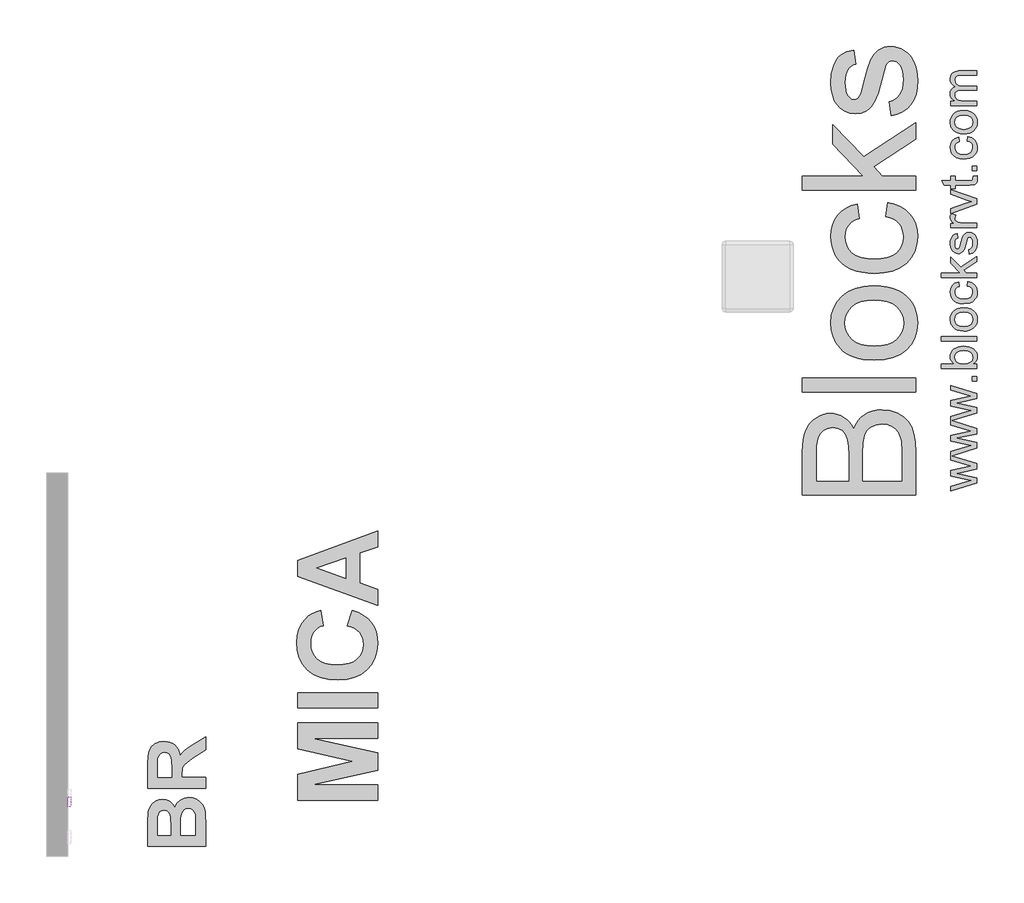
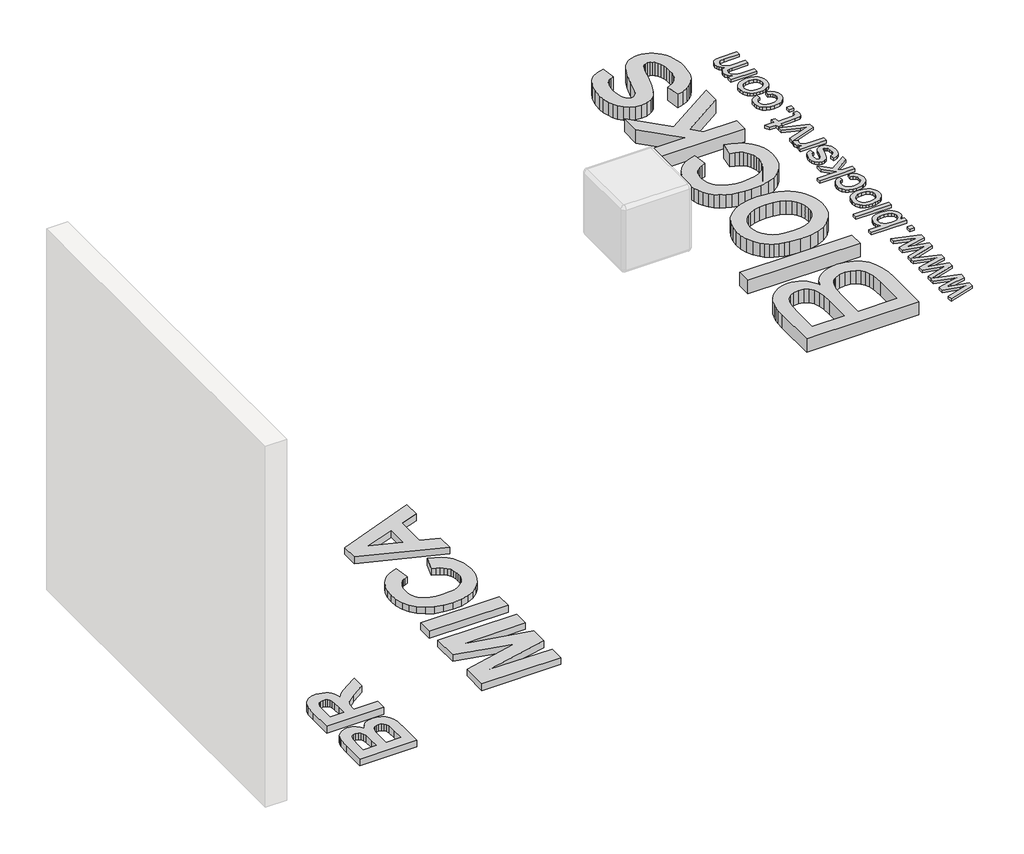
# One storey, part 10 of 10: 5 proxies.
"""IFC4 building model written with IfcOpenShell, lengths in millimetres."""

import ifcopenshell
import ifcopenshell.guid

model = None  # the IFC model being written
_history = None  # IfcOwnerHistory: only IFC2X3 demands one
_inside = {}  # id of a spatial element -> (the spatial element, [elements in it])
_under = {}  # id of a project, library or spatial element -> (it, [spatial elements below it])
_declared = {}  # id of a project -> (the project, [libraries it declares])
_typed = {}  # id of a type object -> (the type object, [elements of that type])
_made_of = {}  # id of a material, layer set ... -> (it, [elements and type objects made of it])


def new_model(schema):
    """Start an empty IFC model of exactly this schema.

    Asked for "IFC4X3", IfcOpenShell would pick the latest addendum, in which some entities
    have other attributes; the version numbers below select the first issue.
    IFC2X3 requires an IfcOwnerHistory on every rooted entity: one is made here for all.
    """
    global model, _history
    if schema == "IFC4X3":
        model = ifcopenshell.file(schema_version=(4, 3, 0, 0))
    else:
        model = ifcopenshell.file(schema=schema)
    _inside.clear()
    _under.clear()
    _declared.clear()
    _typed.clear()
    _made_of.clear()
    _history = None
    if model.schema == "IFC2X3":
        org = make("IfcOrganization", Name="unknown")
        user = make(
            "IfcPersonAndOrganization",
            ThePerson=make("IfcPerson", FamilyName="unknown"),
            TheOrganization=org,
        )
        app = make(
            "IfcApplication",
            ApplicationDeveloper=org,
            Version="unknown",
            ApplicationFullName="unknown",
            ApplicationIdentifier="unknown",
        )
        _history = make(
            "IfcOwnerHistory",
            OwningUser=user,
            OwningApplication=app,
            ChangeAction="ADDED",
            CreationDate=0,
        )
    return model


def make(cls, **values):
    """One entity of the class cls with the attributes given. An attribute that is None is left unset."""
    return model.create_entity(
        cls, **{name: value for name, value in values.items() if value is not None}
    )


def rooted(cls, **values):
    """An entity with a GlobalId (a new one), such as an element, a storey or a relation."""
    return make(cls, GlobalId=ifcopenshell.guid.new(), OwnerHistory=_history, **values)


def si_unit(unit_type, name, prefix=None):
    """IfcSIUnit, for example si_unit("LENGTHUNIT", "METRE", prefix="MILLI")."""
    return make("IfcSIUnit", UnitType=unit_type, Prefix=prefix, Name=name)


def assignment(units):
    """IfcUnitAssignment: the units of a project."""
    return None if units is None else make("IfcUnitAssignment", Units=units)


def point(xyz):
    """IfcCartesianPoint."""
    return None if xyz is None else make("IfcCartesianPoint", Coordinates=xyz)


def direction(xyz):
    """IfcDirection."""
    return None if xyz is None else make("IfcDirection", DirectionRatios=xyz)


def frame(location, z_axis=None, x_axis=None):
    """IfcAxis2Placement3D, a coordinate frame: its origin and axes. An axis left out is left unset."""
    return make(
        "IfcAxis2Placement3D",
        Location=point(location),
        Axis=direction(z_axis),
        RefDirection=direction(x_axis),
    )


def origin():
    """The frame at (0, 0, 0) with its axes left unset."""
    return frame((0.0, 0.0, 0.0))


def origin_with_axes():
    """The frame at (0, 0, 0) with the z axis (0, 0, 1) and the x axis (1, 0, 0) written out."""
    return frame((0.0, 0.0, 0.0), z_axis=(0.0, 0.0, 1.0), x_axis=(1.0, 0.0, 0.0))


def place(relative_to, where):
    """IfcLocalPlacement: puts the frame where relative to a parent placement (None: the world)."""
    return make(
        "IfcLocalPlacement", PlacementRelTo=relative_to, RelativePlacement=where
    )


def context(
    kind, dimensions, precision=None, world=None, true_north=None, identifier=None
):
    """IfcGeometricRepresentationContext, for example the 3D "Model" context."""
    return make(
        "IfcGeometricRepresentationContext",
        ContextIdentifier=identifier,
        ContextType=kind,
        CoordinateSpaceDimension=dimensions,
        Precision=precision,
        WorldCoordinateSystem=world,
        TrueNorth=true_north,
    )


def project(units=None, contexts=None):
    """IfcProject with its units and contexts."""
    return rooted(
        "IfcProject",
        Name="project",
        RepresentationContexts=contexts,
        UnitsInContext=assignment(units),
    )


def spatial(cls, under=None, at=None, **own):
    """A site, building, storey or space (cls), placed at a placement, below another one or the project."""
    s = rooted(cls, ObjectPlacement=at, **own)
    if under is not None:
        _under.setdefault(under.id(), (under, []))[1].append(s)
    return s


def polyline(points):
    """IfcPolyline through the points."""
    return make("IfcPolyline", Points=[point(p) for p in points])


def outline(outer, holes=None, kind="AREA"):
    """IfcArbitraryClosedProfileDef: a profile drawn as a closed curve; with holes, ...WithVoids."""
    if holes is None:
        return make("IfcArbitraryClosedProfileDef", ProfileType=kind, OuterCurve=outer)
    return make(
        "IfcArbitraryProfileDefWithVoids",
        ProfileType=kind,
        OuterCurve=outer,
        InnerCurves=holes,
    )


def extrude(swept, where, along, depth):
    """IfcExtrudedAreaSolid: the profile swept, set in the frame where, extruded along a direction by depth."""
    return make(
        "IfcExtrudedAreaSolid",
        SweptArea=swept,
        Position=where,
        ExtrudedDirection=direction(along),
        Depth=depth,
    )


def shape(context_of_items, identifier, shape_type, items):
    """IfcShapeRepresentation: the items that make up one representation, for example the "Body"."""
    return make(
        "IfcShapeRepresentation",
        ContextOfItems=context_of_items,
        RepresentationIdentifier=identifier,
        RepresentationType=shape_type,
        Items=items,
    )


def made_of(thing, what):
    """Note that an element or type object is made of a material, layer set ...; save() writes the relation."""
    if what is not None:
        _made_of.setdefault(what.id(), (what, []))[1].append(thing)
    return thing


def element(
    cls,
    number,
    at=None,
    inside=None,
    cuts=None,
    type_object=None,
    material=None,
    context=None,
    identifier="Body",
    shape_type=None,
    held_by="IfcProductDefinitionShape",
    body=None,
    shapes=None,
    **own,
):
    """One element of the class cls, such as IfcWall. Its Tag is "e" and its number.

    at: its placement. inside: the storey or other place that contains it. cuts: it is an
    opening in that element (IfcRelVoidsElement). A single representation is given by context,
    identifier, shape_type and body (its items); several are given by shapes. held_by: the class
    of the entity that holds the representations. save() writes the other relations.
    """
    e = rooted(cls, Tag="e%d" % number, ObjectPlacement=at, **own)
    if body is not None:
        shapes = [shape(context, identifier, shape_type, body)]
    if shapes is not None:
        e.Representation = make(held_by, Representations=shapes)
    if inside is not None:
        _inside.setdefault(inside.id(), (inside, []))[1].append(e)
    if cuts is not None:
        rooted(
            "IfcRelVoidsElement", RelatingBuildingElement=cuts, RelatedOpeningElement=e
        )
    if type_object is not None:
        _typed.setdefault(type_object.id(), (type_object, []))[1].append(e)
    return made_of(e, material)


def aggregate(whole, parts):
    """IfcRelAggregates: a whole, such as a stair, and the parts it consists of."""
    return rooted("IfcRelAggregates", RelatingObject=whole, RelatedObjects=parts)


def save(model, path):
    """Write the relations noted so far, then the file.

    IfcRelAggregates (storeys below a building ...), IfcRelContainedInSpatialStructure (elements
    in a storey), IfcRelDefinesByType, IfcRelAssociatesMaterial and IfcRelDeclares: one each for
    every whole, place, type object, material and project.
    """
    for whole, parts in _under.values():
        aggregate(whole, parts)
    for where, things in _inside.values():
        rooted(
            "IfcRelContainedInSpatialStructure",
            RelatedElements=things,
            RelatingStructure=where,
        )
    for kind, things in _typed.values():
        rooted("IfcRelDefinesByType", RelatedObjects=things, RelatingType=kind)
    for what, things in _made_of.values():
        rooted("IfcRelAssociatesMaterial", RelatedObjects=things, RelatingMaterial=what)
    for by, libraries in _declared.values():
        rooted("IfcRelDeclares", RelatingContext=by, RelatedDefinitions=libraries)
    model.write(path)


model = new_model("IFC4")

# Units and contexts
model_context = context("Model", 3, world=origin())
ifc_project = project(units=[si_unit("LENGTHUNIT", "METRE", prefix="MILLI")], contexts=[model_context])

# Site, building, storey
site = spatial("IfcSite", under=ifc_project)
building = spatial("IfcBuilding", under=site)
storey = spatial("IfcBuildingStorey", under=building, Name="PORTOBELLO - SHOWROOM", Elevation=0.0)

# Proxies
placement = place(None, origin())
element("IfcBuildingElementProxy", 1, Name="10mm Arial", ObjectType="10mm Arial", at=placement, inside=storey, context=model_context, shape_type="SweptSolid", body=[
    extrude(outline(polyline([(20907.4022074, 2383.4745677), (20894.8451686, 2383.4745677), (20894.8451686, 2461.7598562), (20882.9503174, 2453.2863076), (20869.7310911, 2446.9464746), (20869.7310911, 2458.8168003), (20888.1374535, 2470.5644987), (20899.3088035, 2483.9308778), (20907.4022074, 2483.9308778), (20907.4022074, 2383.4745677)])), frame((-7116.0080774, 0.0, 0.0), z_axis=(1.0, 0.0, 0.0), x_axis=(0.0, 1.0, 0.0)), (0.0, 0.0, 1.0), 20.0),
    extrude(outline(polyline([(20984.3140698, 2383.4745677), (20971.7570311, 2383.4745677), (20971.7570311, 2461.7598562), (20959.8621799, 2453.2863076), (20946.6429535, 2446.9464746), (20946.6429535, 2458.8168003), (20965.049316, 2470.5644987), (20976.2206659, 2483.9308778), (20984.3140698, 2483.9308778), (20984.3140698, 2383.4745677)])), frame((-7116.0080774, 0.0, 0.0), z_axis=(1.0, 0.0, 0.0), x_axis=(0.0, 1.0, 0.0)), (0.0, 0.0, 1.0), 20.0),
    extrude(outline(polyline([(21020.4155563, 2383.4745677), (21020.4155563, 2396.0316064), (21032.972595, 2396.0316064), (21032.972595, 2383.4745677), (21030.7162521, 2370.635486), (21023.554816, 2363.0693797), (21020.4155563, 2367.7782692), (21025.026344, 2373.1983973), (21026.6695502, 2383.4745677), (21020.4155563, 2383.4745677)])), frame((-7116.0080774, 0.0, 0.0), z_axis=(1.0, 0.0, 0.0), x_axis=(0.0, 1.0, 0.0)), (0.0, 0.0, 1.0), 20.0),
    extrude(outline(polyline([(21053.377783, 2410.158275), (21065.9348218, 2411.7279049), (21072.2623921, 2398.7907214), (21085.3835166, 2394.4619766), (21094.3843628, 2395.9672271), (21101.128866, 2400.4829786), (21105.3411149, 2407.4880649), (21106.7451978, 2416.4613199), (21101.4844853, 2431.3728034), (21094.8779378, 2435.4746877), (21085.5797204, 2436.8419824), (21074.5555232, 2434.6592159), (21067.5044517, 2428.9938332), (21054.9474129, 2430.563463), (21065.9348218, 2482.361248), (21114.593347, 2482.361248), (21114.593347, 2469.8042092), (21076.0883649, 2469.8042092), (21070.6927623, 2442.1394832), (21079.6629516, 2447.5841367), (21089.0623366, 2449.3990212), (21100.7977722, 2447.1488097), (21110.5466451, 2440.3981751), (21117.1133387, 2430.1097419), (21119.3022366, 2417.2461348), (21117.3340679, 2404.6890961), (21111.4295619, 2393.9469418), (21100.1233219, 2384.9154388), (21085.3344657, 2381.9049378), (21073.0012218, 2383.839384), (21063.1757069, 2389.6427224), (21056.4404007, 2398.6405029), (21053.377783, 2410.158275)])), frame((-7116.0080774, 0.0, 0.0), z_axis=(1.0, 0.0, 0.0), x_axis=(0.0, 1.0, 0.0)), (0.0, 0.0, 1.0), 20.0),
    extrude(outline(polyline([(21125.580756, 2383.4745677), (21152.4116161, 2420.5815982), (21127.1503858, 2457.2471704), (21142.2090221, 2457.2471704), (21154.3981789, 2439.5643092), (21160.1126126, 2431.2501761), (21165.0667568, 2438.0682557), (21178.9481707, 2457.2471704), (21194.055858, 2457.2471704), (21167.5193034, 2420.5570728), (21193.0748393, 2383.4745677), (21177.9916775, 2383.4745677), (21162.5896847, 2405.792742), (21159.7937815, 2409.8884949), (21140.6884432, 2383.4745677), (21125.580756, 2383.4745677)])), frame((-7116.0080774, 0.0, 0.0), z_axis=(1.0, 0.0, 0.0), x_axis=(0.0, 1.0, 0.0)), (0.0, 0.0, 1.0), 20.0),
    extrude(outline(polyline([(21248.011884, 2383.4745677), (21235.4548452, 2383.4745677), (21235.4548452, 2461.7598562), (21223.559994, 2453.2863076), (21210.3407677, 2446.9464746), (21210.3407677, 2458.8168003), (21228.7471301, 2470.5644987), (21239.9184801, 2483.9308778), (21248.011884, 2483.9308778), (21248.011884, 2383.4745677)])), frame((-7116.0080774, 0.0, 0.0), z_axis=(1.0, 0.0, 0.0), x_axis=(0.0, 1.0, 0.0)), (0.0, 0.0, 1.0), 20.0),
    extrude(outline(polyline([(21324.9237464, 2383.4745677), (21312.3667077, 2383.4745677), (21312.3667077, 2461.7598562), (21300.4718565, 2453.2863076), (21287.2526301, 2446.9464746), (21287.2526301, 2458.8168003), (21305.6589926, 2470.5644987), (21316.8303425, 2483.9308778), (21324.9237464, 2483.9308778), (21324.9237464, 2383.4745677)])), frame((-7116.0080774, 0.0, 0.0), z_axis=(1.0, 0.0, 0.0), x_axis=(0.0, 1.0, 0.0)), (0.0, 0.0, 1.0), 20.0),
    extrude(outline(polyline([(21361.0252329, 2383.4745677), (21361.0252329, 2396.0316064), (21373.5822716, 2396.0316064), (21373.5822716, 2383.4745677), (21371.3259287, 2370.635486), (21364.1644926, 2363.0693797), (21361.0252329, 2367.7782692), (21365.6360206, 2373.1983973), (21367.2792268, 2383.4745677), (21361.0252329, 2383.4745677)])), frame((-7116.0080774, 0.0, 0.0), z_axis=(1.0, 0.0, 0.0), x_axis=(0.0, 1.0, 0.0)), (0.0, 0.0, 1.0), 20.0),
    extrude(outline(polyline([(21393.9874596, 2410.158275), (21406.5444984, 2411.7279049), (21412.8720687, 2398.7907214), (21425.9931932, 2394.4619766), (21434.9940394, 2395.9672271), (21441.7385426, 2400.4829786), (21445.9507915, 2407.4880649), (21447.3548744, 2416.4613199), (21442.0941619, 2431.3728034), (21435.4876144, 2435.4746877), (21426.189397, 2436.8419824), (21415.1651998, 2434.6592159), (21408.1141283, 2428.9938332), (21395.5570895, 2430.563463), (21406.5444984, 2482.361248), (21455.2030236, 2482.361248), (21455.2030236, 2469.8042092), (21416.6980415, 2469.8042092), (21411.3024389, 2442.1394832), (21420.2726282, 2447.5841367), (21429.6720132, 2449.3990212), (21441.4074488, 2447.1488097), (21451.1563217, 2440.3981751), (21457.7230153, 2430.1097419), (21459.9119132, 2417.2461348), (21457.9437445, 2404.6890961), (21452.0392385, 2393.9469418), (21440.7329985, 2384.9154388), (21425.9441423, 2381.9049378), (21413.6108984, 2383.839384), (21403.7853835, 2389.6427224), (21397.0500773, 2398.6405029), (21393.9874596, 2410.158275)])), frame((-7116.0080774, 0.0, 0.0), z_axis=(1.0, 0.0, 0.0), x_axis=(0.0, 1.0, 0.0)), (0.0, 0.0, 1.0), 20.0),
])
element("IfcBuildingElementProxy", 2, Name="25mm Arial", ObjectType="25mm Arial", at=placement, inside=storey, context=model_context, shape_type="SweptSolid", body=[
    extrude(outline(polyline([(-714.2644665, 23899.3766874), (-892.284449, 23844.9882686), (-714.2644665, 23790.4223032), (-714.2644665, 23752.5304577), (-822.421773, 23728.3728733), (-856.1442893, 23721.3831154), (-714.2644665, 23690.2970868), (-714.2644665, 23652.1599867), (-892.284449, 23597.7715678), (-714.2644665, 23543.2056024), (-714.2644665, 23505.3137569), (-822.421773, 23481.1561726), (-856.1442893, 23474.1664147), (-714.2644665, 23443.0803861), (-714.2644665, 23404.9432859), (-898.6959734, 23348.596027), (-898.6959734, 23381.1535836), (-791.0904898, 23413.0366898), (-752.6468213, 23422.540308), (-789.6802755, 23430.3271436), (-898.6959734, 23455.6496876), (-898.6959734, 23492.9283964), (-789.9868438, 23518.2509404), (-756.4482686, 23525.1793847), (-791.8262538, 23535.1121985), (-898.6959734, 23566.9953048), (-898.6959734, 23595.8127277), (-898.6959734, 23599.7368024), (-898.6959734, 23628.3702843), (-791.0904898, 23660.2533906), (-752.6468213, 23669.7570088), (-789.6802755, 23677.5438443), (-898.6959734, 23702.8663883), (-898.6959734, 23740.1450972), (-789.9868438, 23765.4676412), (-756.4482686, 23772.3960854), (-791.8262538, 23782.3288993), (-898.6959734, 23814.2120056), (-898.6959734, 23843.0294285), (-898.6959734, 23846.9535031), (-898.6959734, 23875.5869851), (-791.0904898, 23907.4700913), (-752.6468213, 23916.9737095), (-789.6802755, 23924.7605451), (-898.6959734, 23950.0830891), (-898.6959734, 23987.3617979), (-789.9868438, 24012.6843419), (-756.4482686, 24019.6127862), (-791.8262538, 24029.5456001), (-898.6959734, 24061.4287063), (-898.6959734, 24094.1702039), (-714.2644665, 24037.639004), (-714.2644665, 23999.7471585), (-822.421773, 23975.5895741), (-856.1442893, 23968.5998162), (-714.2644665, 23937.5137876), (-714.2644665, 23899.3766874)])), origin_with_axes(), (0.0, 0.0, 1.0), 20.0),
    extrude(outline(polyline([(-714.2644665, 24123.6007635), (-745.6570634, 24123.6007635), (-745.6570634, 24154.9933604), (-714.2644665, 24154.9933604), (-714.2644665, 24123.6007635)])), origin_with_axes(), (0.0, 0.0, 1.0), 20.0),
    extrude(outline(polyline([(-714.2644665, 24245.2470766), (-714.2644665, 24213.8544796), (-965.4052418, 24213.8544796), (-965.4052418, 24245.2470766), (-872.2697834, 24245.2470766), (-885.5480242, 24255.5707651), (-895.0324818, 24267.2280258), (-900.7231565, 24280.2188587), (-902.620048, 24294.5432639), (-900.9109296, 24310.7147433), (-895.7835743, 24325.9971745), (-887.5598788, 24339.5168378), (-876.56174, 24350.4000135), (-846.6713279, 24365.3912048), (-809.2393349, 24370.8174643), (-767.3314443, 24365.1995996), (-750.4012083, 24358.1772688), (-736.1534452, 24348.3460057), (-724.8602343, 24336.5450411), (-716.7936552, 24323.6136057), (-711.9537077, 24309.5516997), (-710.3403919, 24294.3593229), (-712.4212244, 24279.5635689), (-718.663722, 24266.4462765), (-729.0678847, 24255.0074458), (-743.6337124, 24245.2470766), (-714.2644665, 24245.2470766)]), holes=[polyline([(-807.7678069, 24245.2470766), (-781.5868716, 24247.3930549), (-763.8672222, 24253.8309898), (-747.2665471, 24270.2783807), (-741.7329888, 24291.6615216), (-745.8103476, 24309.7797099), (-758.0424239, 24325.2614105), (-778.3525757, 24335.8840031), (-806.6641609, 24339.4248673), (-835.3896134, 24336.0296231), (-855.4698389, 24325.8438903), (-867.288048, 24310.8450348), (-871.2274511, 24293.0104223), (-867.1500923, 24274.892234), (-854.918016, 24259.4105334), (-834.9757461, 24248.7879408), (-807.7678069, 24245.2470766)])]), origin_with_axes(), (0.0, 0.0, 1.0), 20.0),
    extrude(outline(polyline([(-714.2644665, 24406.1341358), (-965.4052418, 24406.1341358), (-965.4052418, 24437.5267327), (-714.2644665, 24437.5267327), (-714.2644665, 24406.1341358)])), origin_with_axes(), (0.0, 0.0, 1.0), 20.0),
    extrude(outline(polyline([(-806.4802199, 24476.7674789), (-830.3657249, 24478.465101), (-850.9479561, 24483.5579674), (-868.2269136, 24492.046078), (-882.2025973, 24503.9294328), (-897.5156853, 24529.0986927), (-902.620048, 24559.2343595), (-901.0661298, 24576.553554), (-896.4043751, 24592.2134475), (-888.634784, 24606.2140399), (-877.7573565, 24618.5553312), (-864.1399745, 24628.6280168), (-848.1505201, 24635.8227923), (-829.7889932, 24640.1396576), (-809.0553939, 24641.5786127), (-777.3409002, 24639.0340956), (-753.1986443, 24631.4005442), (-735.1187771, 24618.9002205), (-721.5914495, 24601.7553867), (-713.1531563, 24581.3915855), (-710.3403919, 24559.2343595), (-711.8885619, 24541.662246), (-716.5330721, 24525.8567326), (-724.2739224, 24511.8178192), (-735.1111129, 24499.5455057), (-748.8607024, 24489.580119), (-765.3387501, 24482.4619856), (-784.545256, 24478.1911055), (-806.4802199, 24476.7674789)]), holes=[polyline([(-806.5415336, 24508.1600758), (-778.1303137, 24511.7929105), (-757.8891397, 24522.6914146), (-745.7720265, 24539.0928202), (-741.7329888, 24559.2343595), (-745.7950191, 24579.2839282), (-757.9811102, 24595.654677), (-778.4905315, 24606.5531811), (-807.5225522, 24610.1860158), (-835.1060377, 24606.5301885), (-855.0713001, 24595.5627065), (-867.1884133, 24579.1689651), (-871.2274511, 24559.2343595), (-867.2037418, 24539.0928202), (-855.1326138, 24522.6914146), (-834.9374251, 24511.7929105), (-806.5415336, 24508.1600758)])]), origin_with_axes(), (0.0, 0.0, 1.0), 20.0),
    extrude(outline(polyline([(-780.9737349, 24794.6175227), (-777.0496603, 24826.0101196), (-749.1289497, 24817.2575938), (-728.0293845, 24800.810203), (-714.76264, 24778.2161171), (-710.3403919, 24751.0235063), (-711.8828138, 24733.4169039), (-716.5100795, 24717.630551), (-724.222189, 24703.6644475), (-735.0191424, 24691.5185935), (-748.697838, 24681.6873304), (-765.0551744, 24674.6649996), (-805.8057696, 24669.047135), (-833.7418086, 24671.4460322), (-857.9530424, 24678.6427237), (-877.5044376, 24690.7521727), (-891.4609608, 24707.8893423), (-899.8302762, 24728.3910994), (-902.620048, 24750.5943106), (-898.7879439, 24777.1201353), (-887.2916315, 24798.3269995), (-868.7442476, 24813.5404528), (-843.7589288, 24822.086045), (-839.8348542, 24790.6934481), (-853.5307943, 24784.9989414), (-863.348645, 24776.1314524), (-869.2577496, 24764.5814906), (-871.2274511, 24750.8395653), (-867.3493617, 24730.5524061), (-855.7150936, 24714.4499046), (-835.6961817, 24703.9422751), (-806.6641609, 24700.4397319), (-777.2412655, 24703.865633), (-757.1533757, 24714.1433363), (-745.5880855, 24729.9545978), (-741.7329888, 24749.9811739), (-744.1395502, 24766.2369596), (-751.3592343, 24779.5650177), (-763.5759822, 24789.2602411), (-780.9737349, 24794.6175227)])), origin_with_axes(), (0.0, 0.0, 1.0), 20.0),
    extrude(outline(polyline([(-714.2644665, 24853.4786419), (-965.4052418, 24853.4786419), (-965.4052418, 24884.8712388), (-830.4538633, 24884.8712388), (-898.6959734, 24955.2593273), (-898.6959734, 24998.6694027), (-829.595472, 24927.3616093), (-714.2644665, 25002.5934773), (-714.2644665, 24965.9279051), (-807.7678069, 24904.8594939), (-788.3313748, 24884.8712388), (-714.2644665, 24884.8712388), (-714.2644665, 24853.4786419)])), origin_with_axes(), (0.0, 0.0, 1.0), 20.0),
    extrude(outline(polyline([(-769.2015111, 25018.2897758), (-773.1255857, 25049.6823727), (-759.6978929, 25054.6334512), (-749.8263927, 25064.2137115), (-743.7563397, 25078.4844672), (-741.7329888, 25097.5070321), (-743.5877272, 25116.2996706), (-749.1519423, 25129.5127656), (-757.2146894, 25137.330258), (-766.5650234, 25139.9360888), (-774.5664568, 25137.3149296), (-780.6671666, 25129.451452), (-789.6189618, 25097.1391501), (-804.9780351, 25049.8663137), (-812.6958928, 25037.9024846), (-822.9122824, 25029.2342651), (-834.9757461, 25023.9689541), (-848.2348264, 25022.2138504), (-871.6259899, 25027.8547076), (-889.4989235, 25043.2444378), (-898.7879439, 25063.202036), (-902.620048, 25090.2107058), (-901.0795421, 25110.643485), (-896.4580246, 25128.4091197), (-889.2076836, 25142.6952038), (-879.7807075, 25152.6893313), (-867.4796533, 25159.3112072), (-851.607078, 25163.4805365), (-847.6830034, 25132.0879396), (-857.5621678, 25128.125544), (-865.004114, 25120.2850589), (-869.6716168, 25108.4898425), (-871.2274511, 25092.6632525), (-869.7405947, 25074.6370347), (-865.2800255, 25062.6195562), (-858.8420906, 25055.8597245), (-851.423137, 25053.6064473), (-842.2874008, 25057.3465809), (-835.3589565, 25069.0574911), (-828.675767, 25096.0968177), (-813.8991735, 25142.1740376), (-806.8327735, 25154.3448003), (-797.1605427, 25163.572507), (-784.8518243, 25169.3896411), (-769.8759614, 25171.3286858), (-754.3942608, 25169.0524159), (-739.8322651, 25162.2236064), (-727.3319415, 25151.1028402), (-718.0352569, 25135.9507006), (-712.2641081, 25117.6485713), (-710.3403919, 25097.0778364), (-714.0498686, 25065.4246564), (-725.178299, 25042.3247328), (-743.6030556, 25026.9043458), (-769.2015111, 25018.2897758)])), origin_with_axes(), (0.0, 0.0, 1.0), 20.0),
    extrude(outline(polyline([(-714.2644665, 25369.7397085), (-898.6959734, 25304.7472227), (-898.6959734, 25337.9179159), (-788.2087475, 25377.2812894), (-751.052666, 25389.1148269), (-786.1240829, 25400.7031098), (-898.6959734, 25440.2504242), (-898.6959734, 25473.4824311), (-714.2644665, 25409.4096503), (-714.2644665, 25369.7397085)])), origin_with_axes(), (0.0, 0.0, 1.0), 20.0),
    extrude(outline(polyline([(-714.2644665, 25206.6453573), (-898.6959734, 25206.6453573), (-898.6959734, 25234.1138796), (-871.4113921, 25234.1138796), (-887.2303179, 25244.2612913), (-896.5499951, 25253.6116253), (-902.620048, 25273.2319984), (-900.1981582, 25288.8669832), (-892.9324888, 25304.7472227), (-864.7895162, 25294.2625858), (-871.2274511, 25272.1896661), (-869.679281, 25262.8163394), (-865.0347708, 25254.4393598), (-847.8669444, 25243.1269885), (-811.2013722, 25238.0379542), (-714.2644665, 25238.0379542), (-714.2644665, 25206.6453573)])), origin_with_axes(), (0.0, 0.0, 1.0), 20.0),
    extrude(outline(polyline([(-740.4454018, 25567.6602219), (-713.3447615, 25571.5842965), (-710.3403919, 25548.1011625), (-711.6433073, 25533.0333291), (-715.5520535, 25521.7975998), (-729.2250009, 25508.6764753), (-764.8482408, 25504.8750281), (-867.3033765, 25504.8750281), (-867.3033765, 25481.3305804), (-898.6959734, 25481.3305804), (-898.6959734, 25504.8750281), (-943.5162631, 25504.8750281), (-961.9716766, 25536.267625), (-898.6959734, 25536.267625), (-898.6959734, 25567.6602219), (-867.3033765, 25567.6602219), (-867.3033765, 25536.267625), (-765.7679458, 25536.267625), (-749.581138, 25537.923094), (-743.8483102, 25543.2880397), (-741.7329888, 25553.9872744), (-740.4454018, 25567.6602219)])), origin_with_axes(), (0.0, 0.0, 1.0), 20.0),
    extrude(outline(polyline([(-714.2644665, 25606.900968), (-745.6570634, 25606.900968), (-745.6570634, 25638.293565), (-714.2644665, 25638.293565), (-714.2644665, 25606.900968)])), origin_with_axes(), (0.0, 0.0, 1.0), 20.0),
    extrude(outline(polyline([(-780.9737349, 25814.8769227), (-777.0496603, 25846.2695196), (-749.1289497, 25837.5169938), (-728.0293845, 25821.0696029), (-714.76264, 25798.475517), (-710.3403919, 25771.2829062), (-711.8828138, 25753.6763039), (-716.5100795, 25737.889951), (-724.222189, 25723.9238475), (-735.0191424, 25711.7779935), (-748.697838, 25701.9467304), (-765.0551744, 25694.9243996), (-805.8057696, 25689.306535), (-833.7418086, 25691.7054321), (-857.9530424, 25698.9021237), (-877.5044376, 25711.0115727), (-891.4609608, 25728.1487423), (-899.8302762, 25748.6504993), (-902.620048, 25770.8537106), (-898.7879439, 25797.3795353), (-887.2916315, 25818.5863994), (-868.7442476, 25833.7998528), (-843.7589288, 25842.345445), (-839.8348542, 25810.952848), (-853.5307943, 25805.2583413), (-863.348645, 25796.3908524), (-869.2577496, 25784.8408906), (-871.2274511, 25771.0989652), (-867.3493617, 25750.811806), (-855.7150936, 25734.7093045), (-835.6961817, 25724.2016751), (-806.6641609, 25720.6991319), (-777.2412655, 25724.125033), (-757.1533757, 25734.4027362), (-745.5880855, 25750.2139978), (-741.7329888, 25770.2405739), (-744.1395502, 25786.4963596), (-751.3592343, 25799.8244177), (-763.5759822, 25809.5196411), (-780.9737349, 25814.8769227)])), origin_with_axes(), (0.0, 0.0, 1.0), 20.0),
    extrude(outline(polyline([(-806.4802199, 25865.8898927), (-830.3657249, 25867.5875148), (-850.9479561, 25872.6803811), (-868.2269136, 25881.1684918), (-882.2025973, 25893.0518466), (-897.5156853, 25918.2211065), (-902.620048, 25948.3567732), (-901.0661298, 25965.6759678), (-896.4043751, 25981.3358613), (-888.634784, 25995.3364537), (-877.7573565, 26007.677745), (-864.1399745, 26017.7504306), (-848.1505201, 26024.9452061), (-829.7889932, 26029.2620714), (-809.0553939, 26030.7010265), (-777.3409002, 26028.1565094), (-753.1986443, 26020.522958), (-735.1187771, 26008.0226343), (-721.5914495, 25990.8778005), (-713.1531563, 25970.5139992), (-710.3403919, 25948.3567732), (-711.8885619, 25930.7846598), (-716.5330721, 25914.9791464), (-724.2739224, 25900.940233), (-735.1111129, 25888.6679195), (-748.8607024, 25878.7025328), (-765.3387501, 25871.5843994), (-784.545256, 25867.3135193), (-806.4802199, 25865.8898927)]), holes=[polyline([(-806.5415336, 25897.2824896), (-778.1303137, 25900.9153243), (-757.8891397, 25911.8138284), (-745.7720265, 25928.215234), (-741.7329888, 25948.3567732), (-745.7950191, 25968.406342), (-757.9811102, 25984.7770908), (-778.4905315, 25995.6755949), (-807.5225522, 25999.3084296), (-835.1060377, 25995.6526022), (-855.0713001, 25984.6851203), (-867.1884133, 25968.2913789), (-871.2274511, 25948.3567732), (-867.2037418, 25928.215234), (-855.1326138, 25911.8138284), (-834.9374251, 25900.9153243), (-806.5415336, 25897.2824896)])]), origin_with_axes(), (0.0, 0.0, 1.0), 20.0),
    extrude(outline(polyline([(-714.2644665, 26066.017698), (-898.6959734, 26066.017698), (-898.6959734, 26097.410295), (-868.3457088, 26097.410295), (-882.2869036, 26106.8525995), (-893.2084003, 26118.9927053), (-900.2671361, 26133.4167452), (-902.620048, 26149.7108519), (-900.2211508, 26167.1699183), (-893.0244593, 26181.1647625), (-881.5051543, 26191.6187425), (-866.1384168, 26198.4552163), (-882.0991305, 26209.8978792), (-893.4996402, 26222.9500258), (-900.339946, 26237.6116562), (-902.620048, 26253.8827702), (-898.8262649, 26277.4808674), (-887.4449157, 26294.9322695), (-868.169432, 26305.7158105), (-840.6932455, 26309.3103242), (-714.2644665, 26309.3103242), (-714.2644665, 26277.9177273), (-827.204239, 26277.9177273), (-853.4158311, 26275.0053281), (-866.3223578, 26264.4593776), (-871.2274511, 26246.5251303), (-868.0851257, 26229.5182523), (-858.6581496, 26215.6536996), (-842.3027292, 26206.4336571), (-818.3750711, 26203.3603096), (-714.2644665, 26203.3603096), (-714.2644665, 26171.9677126), (-830.6991179, 26171.9677126), (-848.4494242, 26170.1512953), (-861.1106962, 26164.7020432), (-868.6982624, 26155.1141187), (-871.2274511, 26140.881684), (-869.5413253, 26128.7875635), (-864.4829478, 26117.6438047), (-856.1749461, 26108.4467548), (-844.7399474, 26102.1927609), (-807.2772976, 26097.410295), (-714.2644665, 26097.410295), (-714.2644665, 26066.017698)])), origin_with_axes(), (0.0, 0.0, 1.0), 20.0),
])
element("IfcBuildingElementProxy", 3, Name="400mm Arial", ObjectType="400mm Arial", at=placement, inside=storey, context=model_context, shape_type="SweptSolid", body=[
    extrude(outline(polyline([(-6554.2616634, 20846.402576), (-6554.2616634, 21013.9154041), (-6550.213015, 21088.0562781), (-6543.9502619, 21111.2094862), (-6533.2592997, 21131.781681), (-6518.2286925, 21149.4565617), (-6498.9470044, 21163.9178278), (-6476.2366172, 21173.5586718), (-6450.9199126, 21176.7722865), (-6423.3384953, 21172.9387225), (-6398.0850509, 21161.4380306), (-6377.0067751, 21143.358285), (-6361.9508638, 21119.7875601), (-6347.3251214, 21149.595734), (-6325.1081632, 21171.6102597), (-6296.7929284, 21185.198536), (-6263.872356, 21189.7279614), (-6236.5313272, 21186.4763906), (-6209.974724, 21176.7216784), (-6186.4419551, 21161.3368144), (-6168.1724291, 21141.1947885), (-6155.5330549, 21116.0552123), (-6148.8907411, 21085.6776972), (-6146.1579034, 20985.8785138), (-6146.1579034, 20846.402576), (-6554.2616634, 20846.402576)]), holes=[polyline([(-6483.0054513, 20924.1366255), (-6392.3157269, 20924.1366255), (-6392.3157269, 20983.4493248), (-6393.6315376, 21049.2398615), (-6398.3633954, 21069.9512285), (-6407.7005908, 21085.7283053), (-6421.1876509, 21095.710754), (-6438.3691026, 21099.0382369), (-6454.8040847, 21096.166227), (-6467.8736279, 21087.5501971), (-6477.0210429, 21073.2913634), (-6481.6896406, 21053.4909423), (-6483.0054513, 20976.1617576), (-6483.0054513, 20924.1366255)]), polyline([(-6321.0595148, 20924.1366255), (-6217.4141154, 20924.1366255), (-6217.4141154, 21006.3241883), (-6219.8433045, 21067.2563469), (-6225.2710238, 21085.2475283), (-6235.2787766, 21099.544318), (-6249.6641305, 21108.8815134), (-6268.224653, 21111.9939119), (-6284.3180305, 21109.5900269), (-6297.7797864, 21102.3783719), (-6308.2809683, 21090.6372915), (-6315.4926232, 21074.6451303), (-6319.6677919, 21045.8997265), (-6321.0595148, 20995.8989186), (-6321.0595148, 20924.1366255)])]), origin_with_axes(), (0.0, 0.0, 1.0), 50.0),
    extrude(outline(polyline([(-6146.1579034, 21254.506336), (-6554.2616634, 21254.506336), (-6554.2616634, 21426.1690287), (-6551.5035216, 21482.0909849), (-6543.2290964, 21520.3001043), (-6527.8948406, 21546.7175352), (-6503.9572068, 21567.2644259), (-6473.6682559, 21580.4731413), (-6439.2800485, 21584.8760464), (-6417.2085886, 21583.2850541), (-6397.1488009, 21578.5120772), (-6379.1006854, 21570.5571157), (-6363.0642421, 21559.4201696), (-6349.4253577, 21545.1138908), (-6338.5699192, 21527.6509315), (-6330.4979264, 21507.0312917), (-6325.2093794, 21483.2549713), (-6308.9641777, 21505.8008821), (-6291.2007328, 21524.0451041), (-6265.4665113, 21542.9219273), (-6225.3089798, 21567.3656421), (-6146.1579034, 21617.2652338), (-6146.1579034, 21526.4742931), (-6239.3780331, 21467.3640263), (-6294.692692, 21420.9563938), (-6304.29558, 21408.0766311), (-6310.3305965, 21394.4377467), (-6314.5816773, 21350.0544385), (-6314.5816773, 21332.2403855), (-6146.1579034, 21332.2403855), (-6146.1579034, 21254.506336)]), holes=[polyline([(-6385.8378894, 21332.2403855), (-6385.8378894, 21396.3102466), (-6387.0145279, 21446.8803957), (-6390.5444432, 21474.0949043), (-6396.9463685, 21487.936221), (-6406.7390368, 21498.3867947), (-6419.6567557, 21504.9531964), (-6435.4338325, 21507.1419969), (-6452.9062808, 21504.2573349), (-6466.6590333, 21495.603349), (-6476.3631375, 21481.68612), (-6481.6896406, 21463.0117292), (-6483.0054513, 21399.852814), (-6483.0054513, 21332.2403855), (-6385.8378894, 21332.2403855)])]), origin_with_axes(), (0.0, 0.0, 1.0), 50.0),
])
element("IfcBuildingElementProxy", 4, Name="550mm Arial", ObjectType="550mm Arial", at=placement, inside=storey, context=model_context, shape_type="SweptSolid", body=[
    extrude(outline(polyline([(-4934.615876, 21171.5913828), (-5495.758546, 21171.5913828), (-5495.758546, 21354.4637708), (-5113.0347508, 21443.2556913), (-5495.758546, 21531.7692672), (-5495.758546, 21714.9199997), (-4934.615876, 21714.9199997), (-4934.615876, 21608.0356816), (-5376.3487219, 21603.5821684), (-4934.615876, 21505.8832214), (-4934.615876, 21380.9065057), (-5376.3487219, 21282.9292141), (-4934.615876, 21278.4757009), (-4934.615876, 21171.5913828)])), origin_with_axes(), (0.0, 0.0, 1.0), 50.0),
    extrude(outline(polyline([(-4934.615876, 21821.8043178), (-5495.758546, 21821.8043178), (-5495.758546, 21928.6886359), (-4934.615876, 21928.6886359), (-4934.615876, 21821.8043178)])), origin_with_axes(), (0.0, 0.0, 1.0), 50.0),
    extrude(outline(polyline([(-5148.3845122, 22400.7610408), (-5112.7564062, 22507.6453589), (-5070.4958708, 22492.884398), (-5034.0370801, 22473.9308719), (-5003.3800343, 22450.7847805), (-4978.5247333, 22423.446124), (-4959.3146082, 22392.0279797), (-4945.5930904, 22356.6434252), (-4937.3601796, 22317.2924604), (-4934.615876, 22273.9750854), (-4939.3042425, 22220.4546419), (-4953.369342, 22171.9270043), (-4976.8111745, 22128.3921726), (-5009.6297399, 22089.8501468), (-5050.581186, 22058.3102268), (-5098.4216604, 22035.7817124), (-5153.1511631, 22022.2646039), (-5214.7696942, 22017.758901), (-5279.7457567, 22022.3037461), (-5337.0325502, 22035.9382813), (-5386.6300748, 22058.6625066), (-5428.5383304, 22090.4764221), (-5461.8439988, 22129.701262), (-5485.633762, 22174.6582605), (-5499.9076199, 22225.3474177), (-5504.6655725, 22281.7687336), (-5500.7426536, 22331.1053101), (-5488.9738969, 22375.5708565), (-5469.3593024, 22415.1653728), (-5441.8988701, 22449.8888589), (-5421.3622592, 22467.9551617), (-5396.7722553, 22483.603346), (-5368.1288586, 22496.8334117), (-5335.4320689, 22507.6453589), (-5317.6180159, 22400.7610408), (-5337.1934682, 22394.0242322), (-5354.5856552, 22384.3909003), (-5369.7945769, 22371.8610451), (-5382.8202334, 22356.4346667), (-5393.2625042, 22338.6510576), (-5400.7212691, 22319.0495105), (-5405.196528, 22297.6300254), (-5406.688281, 22274.3926022), (-5403.9787704, 22242.6308764), (-5395.8502389, 22214.0092253), (-5382.3026864, 22188.527649), (-5363.3361129, 22166.1861474), (-5338.3068465, 22148.0111163), (-5306.5712154, 22135.0289512), (-5268.1292197, 22127.2396521), (-5222.9808592, 22124.6432191), (-5175.1925744, 22127.1613677), (-5134.815214, 22134.7158135), (-5101.848778, 22147.3065566), (-5076.2932664, 22164.9335968), (-5057.1744732, 22186.5966334), (-5043.5181923, 22211.2953656), (-5035.3244238, 22239.0297934), (-5032.5931676, 22269.7999167), (-5034.3371704, 22292.7068057), (-5039.5691786, 22313.969722), (-5048.2891924, 22333.5886656), (-5060.4972116, 22351.5636366), (-5076.4541844, 22367.5032128), (-5096.4210588, 22381.0159723), (-5120.3978347, 22392.101915), (-5148.3845122, 22400.7610408)])), origin_with_axes(), (0.0, 0.0, 1.0), 50.0),
    extrude(outline(polyline([(-4934.615876, 23068.7880289), (-4934.615876, 22956.4759915), (-5059.3142472, 22912.4975481), (-5059.3142472, 22700.677324), (-4934.615876, 22657.2555698), (-4934.615876, 22543.2734649), (-5495.758546, 22747.85673), (-5495.758546, 22861.9780072), (-4934.615876, 23068.7880289)]), holes=[polyline([(-5157.2915387, 22878.261165), (-5362.1531484, 22806.0307469), (-5157.2915387, 22734.7745349), (-5157.2915387, 22878.261165)])]), origin_with_axes(), (0.0, 0.0, 1.0), 50.0),
])
element("IfcBuildingElementProxy", 5, Name="80mm Arial", ObjectType="80mm Arial", at=placement, inside=storey, context=model_context, shape_type="SweptSolid", body=[
    extrude(outline(polyline([(-1143.7078891, 23321.3988032), (-1943.0965875, 23321.3988032), (-1943.0965875, 23626.438973), (-1941.6267642, 23670.6861425), (-1937.2172944, 23710.3347779), (-1929.868178, 23745.3848789), (-1919.5794151, 23775.8364458), (-1906.2412263, 23802.4640326), (-1889.7438322, 23826.0421935), (-1870.087233, 23846.5709286), (-1847.2714286, 23864.0502377), (-1822.5832766, 23878.0105094), (-1797.3096349, 23887.982132), (-1771.4505034, 23893.9651056), (-1745.0058822, 23895.9594301), (-1720.5799809, 23894.2822459), (-1696.8737441, 23889.2506932), (-1673.8871718, 23880.864772), (-1651.620264, 23869.1244824), (-1630.7682898, 23853.9932312), (-1612.0265183, 23835.4344252), (-1595.3949496, 23813.4480646), (-1580.8735835, 23788.0341493), (-1568.017204, 23818.1929713), (-1551.3063502, 23844.6558891), (-1530.741022, 23867.4229027), (-1506.3212196, 23886.4940122), (-1478.7910027, 23901.5642749), (-1448.8944314, 23912.3287483), (-1416.6315055, 23918.7874323), (-1382.0022252, 23920.940327), (-1326.2587201, 23915.0610339), (-1274.5648526, 23897.4231546), (-1230.6043291, 23871.1005103), (-1198.060856, 23839.1669225), (-1174.4948928, 23800.061085), (-1157.4668987, 23752.2216918), (-1147.1476415, 23694.0874368), (-1143.7078891, 23624.0970139), (-1143.7078891, 23321.3988032)]), holes=[polyline([(-1618.3449288, 23421.3223905), (-1618.3449288, 23603.8000353), (-1620.4917246, 23667.6184201), (-1626.9321121, 23710.3591733), (-1641.7401241, 23747.6597507), (-1663.9155492, 23774.470303), (-1693.1168514, 23790.6444579), (-1729.0024952, 23796.0358428), (-1763.8391364, 23791.010389), (-1794.1870228, 23775.9340274), (-1817.8749631, 23751.4898296), (-1832.731766, 23718.3608668), (-1840.5626916, 23667.5208385), (-1843.1730002, 23589.9434441), (-1843.1730002, 23421.3223905), (-1618.3449288, 23421.3223905)]), polyline([(-1243.6314764, 23421.3223905), (-1243.6314764, 23626.2438097), (-1247.5347416, 23700.4058472), (-1256.1951111, 23734.8277665), (-1269.2954446, 23763.1508341), (-1288.0555127, 23786.1800984), (-1313.6950855, 23804.7206078), (-1345.067579, 23816.9427067), (-1381.026409, 23821.0167397), (-1422.7913458, 23816.2352399), (-1458.701385, 23801.8907405), (-1473.966811, 23790.84572), (-1486.7804985, 23776.8366575), (-1497.1424477, 23759.863553), (-1505.0526584, 23739.9264066), (-1515.0791707, 23687.6470493), (-1518.4213415, 23616.4856469), (-1518.4213415, 23421.3223905), (-1243.6314764, 23421.3223905)])]), origin_with_axes(), (0.0, 0.0, 1.0), 100.0),
    extrude(outline(polyline([(-1143.7078891, 24045.8448111), (-1943.0965875, 24045.8448111), (-1943.0965875, 24145.7683984), (-1143.7078891, 24145.7683984), (-1143.7078891, 24045.8448111)])), origin_with_axes(), (0.0, 0.0, 1.0), 100.0),
    extrude(outline(polyline([(-1437.2334268, 24270.6728825), (-1513.2617129, 24276.0764651), (-1547.3329483, 24282.8309435), (-1578.7755785, 24292.2872131), (-1607.5896037, 24304.4452741), (-1633.7750237, 24319.3051264), (-1657.3318387, 24336.8667701), (-1678.2600485, 24357.1302051), (-1706.6928954, 24395.2114355), (-1727.0020718, 24437.2447218), (-1739.1875776, 24483.2300641), (-1743.2494129, 24533.1674624), (-1738.3032441, 24588.2949835), (-1723.4647378, 24638.1408989), (-1698.7338939, 24682.7052088), (-1664.1107124, 24721.987913), (-1620.7661729, 24754.0495767), (-1569.871255, 24776.9507651), (-1511.4259585, 24790.6914781), (-1445.4302836, 24795.2717158), (-1391.9433536, 24793.246897), (-1344.4820892, 24787.1724406), (-1303.0464903, 24777.0483467), (-1267.636557, 24762.8746152), (-1237.0508154, 24744.8281128), (-1210.0877917, 24723.0857063), (-1186.747486, 24697.6473956), (-1167.0298983, 24668.5131807), (-1151.3619481, 24636.8174481), (-1140.1705551, 24603.6945842), (-1133.4557193, 24569.1445889), (-1131.2174407, 24533.1674624), (-1136.1453129, 24477.2348929), (-1150.9289296, 24426.9254647), (-1175.5682907, 24382.2391778), (-1210.0633963, 24343.1760322), (-1253.8287566, 24311.4559042), (-1306.2788817, 24288.7986699), (-1367.4137718, 24275.2043293), (-1437.2334268, 24270.6728825)]), holes=[polyline([(-1437.4285901, 24370.5964698), (-1388.9610151, 24373.4873255), (-1346.9948161, 24382.1598927), (-1311.5299931, 24396.6141714), (-1282.5665461, 24416.8501616), (-1260.0678819, 24441.4651273), (-1243.9974075, 24469.0563326), (-1234.3551229, 24499.6237777), (-1231.141028, 24533.1674624), (-1234.3734194, 24566.5403792), (-1244.0705938, 24596.9858472), (-1260.2325509, 24624.5038664), (-1282.859291, 24649.0944367), (-1312.109384, 24669.3304269), (-1348.1414002, 24683.7847055), (-1390.9553396, 24692.4572727), (-1440.5512022, 24695.3481285), (-1487.4818665, 24692.4389762), (-1528.3502722, 24683.7115193), (-1563.1564192, 24669.1657579), (-1591.9003075, 24648.8016918), (-1614.3989717, 24624.1196387), (-1630.4694461, 24596.6199161), (-1640.1117307, 24566.302524), (-1643.3258256, 24533.1674624), (-1640.1239284, 24499.6237777), (-1630.5182369, 24469.0563326), (-1614.508751, 24441.4651273), (-1592.0954708, 24416.8501616), (-1563.2174077, 24396.6141714), (-1527.8135732, 24382.1598927), (-1485.8839673, 24373.4873255), (-1437.4285901, 24370.5964698)])]), origin_with_axes(), (0.0, 0.0, 1.0), 100.0),
    extrude(outline(polyline([(-1356.0455121, 25282.3992038), (-1343.5550637, 25382.3227911), (-1296.4048407, 25371.4546373), (-1254.6825958, 25354.4632363), (-1218.388329, 25331.3485881), (-1187.5220402, 25302.1106927), (-1162.8887779, 25267.9815183), (-1145.2935906, 25230.1930327), (-1134.7364782, 25188.7452361), (-1131.2174407, 25143.6381285), (-1136.1270164, 25087.5957796), (-1150.8557434, 25037.34734), (-1175.4036217, 24992.8928095), (-1209.7706514, 24954.2321881), (-1253.3103542, 24922.9389797), (-1305.3762517, 24900.586688), (-1365.9683439, 24887.175313), (-1435.086631, 24882.7048547), (-1481.0292813, 24884.6137953), (-1524.0078897, 24890.3406171), (-1564.0224561, 24899.8853201), (-1601.0729806, 24913.2479043), (-1634.4154032, 24930.5198525), (-1663.305664, 24951.7926474), (-1687.743763, 24977.0662891), (-1707.7297002, 25006.3407776), (-1723.2695745, 25038.292662), (-1734.3694847, 25071.5984915), (-1741.0294308, 25106.258266), (-1743.2494129, 25142.2719857), (-1740.199987, 25186.6045392), (-1731.0517094, 25226.7044895), (-1715.80458, 25262.5718367), (-1694.4585988, 25294.2065808), (-1667.501674, 25321.0720229), (-1635.4217137, 25342.6314638), (-1598.218718, 25358.8849038), (-1555.8926867, 25369.8323427), (-1543.4022383, 25269.9087554), (-1566.742544, 25262.108324), (-1586.9968307, 25251.782968), (-1604.1650984, 25238.9326873), (-1618.2473471, 25223.557482), (-1629.2191815, 25206.0476786), (-1637.056206, 25186.7936036), (-1641.7584207, 25165.795257), (-1643.3258256, 25143.0526387), (-1640.2398066, 25109.100331), (-1630.9817496, 25078.4779963), (-1615.5516547, 25051.1856346), (-1593.9495217, 25027.223246), (-1565.6752449, 25007.7130192), (-1530.2287185, 24993.777143), (-1487.6099424, 24985.4156172), (-1437.8189166, 24982.6284419), (-1387.277732, 24985.3546287), (-1344.1649489, 24993.5331889), (-1308.4805672, 25007.1641226), (-1280.224587, 25026.2474298), (-1258.7505299, 25049.7341079), (-1243.4119178, 25076.5751545), (-1234.2087505, 25106.7705696), (-1231.141028, 25140.3203531), (-1233.0560675, 25167.356563), (-1238.8011858, 25192.0630115), (-1248.3763831, 25214.4396986), (-1261.7816593, 25234.4866244), (-1279.1633868, 25251.6426944), (-1300.6679381, 25265.3468143), (-1326.2953132, 25275.5989841), (-1356.0455121, 25282.3992038)])), origin_with_axes(), (0.0, 0.0, 1.0), 100.0),
    extrude(outline(polyline([(-1143.7078891, 25469.75593), (-1943.0965875, 25469.75593), (-1943.0965875, 25569.6795173), (-1513.5422601, 25569.6795173), (-1730.7589645, 25793.7269357), (-1730.7589645, 25931.9025212), (-1510.8099745, 25704.927654), (-1143.7078891, 25944.3929696), (-1143.7078891, 25827.6853423), (-1441.3318552, 25633.3027389), (-1379.4651029, 25569.6795173), (-1143.7078891, 25569.6795173), (-1143.7078891, 25469.75593)])), origin_with_axes(), (0.0, 0.0, 1.0), 100.0),
    extrude(outline(polyline([(-1318.5741669, 25994.3547633), (-1331.0646153, 26094.2783506), (-1308.2793051, 26100.3162138), (-1288.3238621, 26110.0377835), (-1271.1982864, 26123.4430597), (-1256.9025779, 26140.5320424), (-1245.6318998, 26161.3535223), (-1237.5814155, 26185.9562903), (-1232.7511249, 26214.3403464), (-1231.141028, 26246.5056906), (-1232.6169501, 26278.6344417), (-1237.0447165, 26306.3232287), (-1244.4243272, 26329.5720516), (-1254.755782, 26348.3809105), (-1267.0754626, 26362.8961776), (-1280.4197503, 26373.2642256), (-1294.788645, 26379.4850544), (-1310.1821469, 26381.558664), (-1323.672807, 26379.4728567), (-1335.6509518, 26373.2154348), (-1346.1165815, 26362.7863983), (-1355.0696958, 26348.1857472), (-1367.7553075, 26310.7631928), (-1383.5635313, 26245.3347111), (-1409.9349663, 26154.1446795), (-1432.451927, 26094.8638403), (-1457.0181019, 26056.7826099), (-1472.2835279, 26041.6757541), (-1489.5371795, 26029.1914046), (-1527.9355502, 26012.4317599), (-1570.1396044, 26006.8452117), (-1608.8551154, 26011.3339666), (-1644.5943868, 26024.8002313), (-1675.9424848, 26046.0242354), (-1701.484476, 26073.7862087), (-1717.5610493, 26101.377414), (-1731.0517094, 26137.3118486), (-1740.199987, 26178.8572268), (-1743.2494129, 26223.2812631), (-1738.3459361, 26288.3194183), (-1723.6355056, 26344.8679718), (-1700.5574505, 26390.3410106), (-1686.4203122, 26407.9544945), (-1670.5510999, 26422.1526214), (-1631.3964715, 26443.2302531), (-1580.8735835, 26456.5013545), (-1568.3831351, 26356.5777672), (-1585.0756924, 26351.814564), (-1599.8288148, 26343.9653418), (-1612.6425024, 26333.0301006), (-1623.5167551, 26319.0088404), (-1632.1832234, 26301.8405726), (-1638.373558, 26281.4643089), (-1643.3258256, 26231.0877933), (-1638.5931166, 26173.7097959), (-1632.6772304, 26152.1930469), (-1624.3949897, 26135.4577977), (-1603.9028478, 26113.9410487), (-1592.4857973, 26108.5618614), (-1580.2880938, 26106.768799), (-1564.9189873, 26109.7450386), (-1551.2087686, 26118.6737576), (-1538.9622742, 26133.9452824), (-1529.1553206, 26155.9499396), (-1507.8825256, 26242.0169357), (-1481.7794401, 26330.3039138), (-1460.8481808, 26388.6821229), (-1438.3556155, 26427.4220293), (-1407.5686118, 26456.7940994), (-1389.0403002, 26467.5951659), (-1368.3895881, 26475.3102134), (-1345.6164756, 26479.9392418), (-1320.7209627, 26481.4822513), (-1295.7156705, 26479.6708924), (-1271.4422405, 26474.2368154), (-1247.9006727, 26465.1800206), (-1225.0909671, 26452.5005078), (-1203.9218526, 26436.405638), (-1185.3020582, 26417.1027721), (-1169.2315838, 26394.5919103), (-1155.7104294, 26368.8730524), (-1144.9947469, 26340.6475664), (-1137.3406879, 26310.6168203), (-1132.7482525, 26278.7808141), (-1131.2174407, 26245.1395478), (-1134.169285, 26191.3598729), (-1143.0248177, 26144.3865167), (-1157.784039, 26104.219479), (-1178.4469488, 26070.8587598), (-1204.9159654, 26043.6090901), (-1237.0935073, 26021.7752008), (-1274.9795745, 26005.3570919), (-1318.5741669, 25994.3547633)])), origin_with_axes(), (0.0, 0.0, 1.0), 100.0),
])

save(model, "model.ifc")
